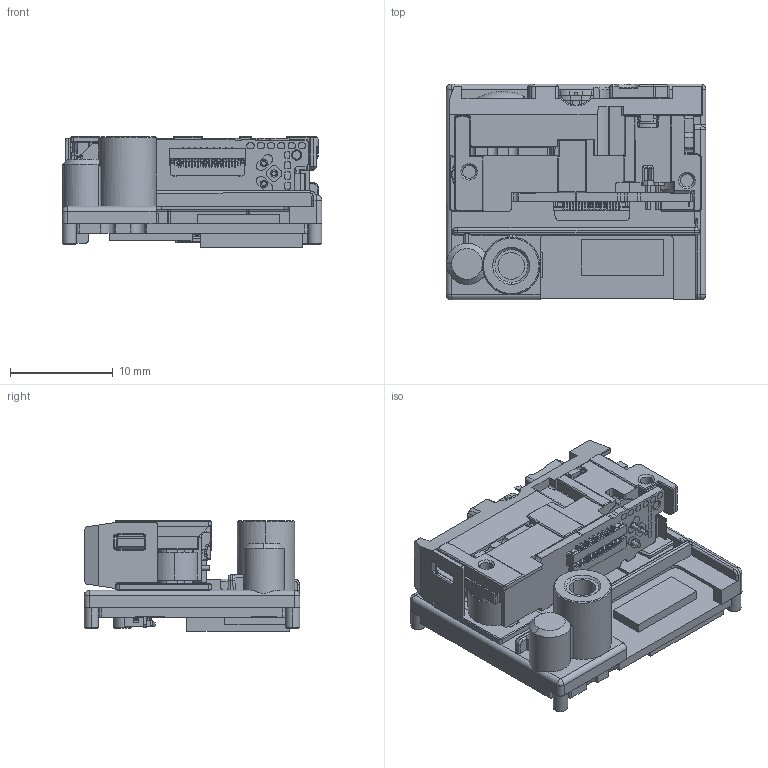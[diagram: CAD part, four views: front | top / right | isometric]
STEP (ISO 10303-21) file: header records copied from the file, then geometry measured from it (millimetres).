
FILE_DESCRIPTION((''),'2;1');
FILE_NAME('R-52_ASM','2024-11-27T',('skomi0303'),(''),'CREO PARAMETRIC BY PTC INC, 2018360','CREO PARAMETRIC BY PTC INC, 2018360','');
FILE_SCHEMA(('CONFIG_CONTROL_DESIGN'));
Products named in the file (28): R-52_CAMERA_BODY191209_CAVI; R-52_LED_PCB_B_W; R-52_LED_PCB_ASM; MSI52002200MASK_LENS191206; R-55_COLLIMATE_LENS; 2690_BARREL_20190313_2; 2690-190315-JT-2; BH218700199-160115-2_1_1; 2690_ASSEMBLY_20190313_ASM_3_ASM; R-52_LASER_LENS_ASM; R-55_LASER_DIODE_CAN; R-52_LASER_ASM; R-52_C-MOS_PCB_ES; R-55_C-MOS_OV9281_CSP; R-52_SUB_PCB_C; 5035661900; R-52_LENS_UNIT_ASM; 2682_MELAYOUT_V5_20190315; R-52_C-MOS_PCB_ASM; R-52_COVER7_CAVI; R-52_ROE_LENS; R-46_MAIN_PCB; 20527-019EXXXC_ACT_CLOSE_STEP_R; R-52_HOLDER; R-52_TERMINAL; R-52_M16_4_NABE; R-46_MAIN_PCB_ASM; R-52_ASM
Assembly tree (27 placements, depth 5):
  R-52_ASM
    R-52_CAMERA_BODY191209_CAVI
    R-52_LED_PCB_ASM
      R-52_LED_PCB_B_W
    MSI52002200MASK_LENS191206
    R-52_LASER_ASM
      R-52_LASER_LENS_ASM
        R-55_COLLIMATE_LENS
        2690_ASSEMBLY_20190313_ASM_3_ASM
          2690_BARREL_20190313_2
          2690-190315-JT-2
          BH218700199-160115-2_1_1
      R-55_LASER_DIODE_CAN
    R-52_C-MOS_PCB_ASM
      R-52_C-MOS_PCB_ES
      R-55_C-MOS_OV9281_CSP
      R-52_SUB_PCB_C
      5035661900
      R-52_LENS_UNIT_ASM
      2682_MELAYOUT_V5_20190315
    R-52_COVER7_CAVI
    R-52_ROE_LENS
    R-46_MAIN_PCB_ASM
      R-46_MAIN_PCB
      20527-019EXXXC_ACT_CLOSE_STEP_R
      R-52_HOLDER
      R-52_TERMINAL
      R-52_M16_4_NABE
Bounding box: 25.3 x 21 x 10.8 mm (x, y, z)
Volume: 2253.6 mm3; surface area: 6227.3 mm2
Topology: 20 solids, 21 shells, 6621 faces, 18298 edges, 11792 vertices
Faces by surface type: plane 4340, cylinder 1416, bspline 330, cone 294, torus 98, sphere 72, extrusion 58, revolution 13
Entity records: 271958 total; most frequent: CARTESIAN_POINT 103769, ORIENTED_EDGE 36540, DIRECTION 32828, EDGE_CURVE 18270, VECTOR 13411, LINE 13353, VERTEX_POINT 11792, AXIS2_PLACEMENT_3D 9702
